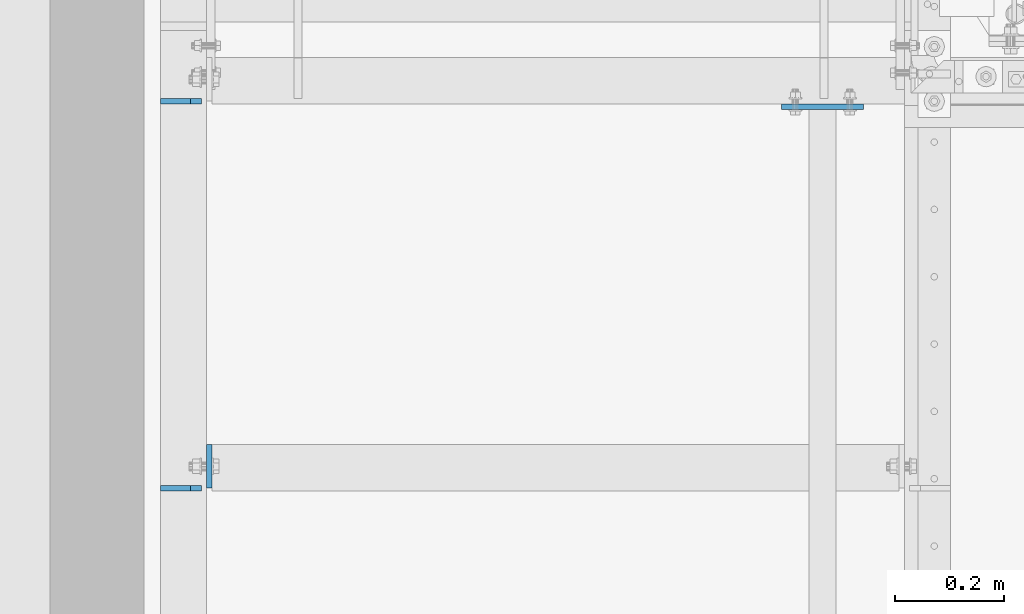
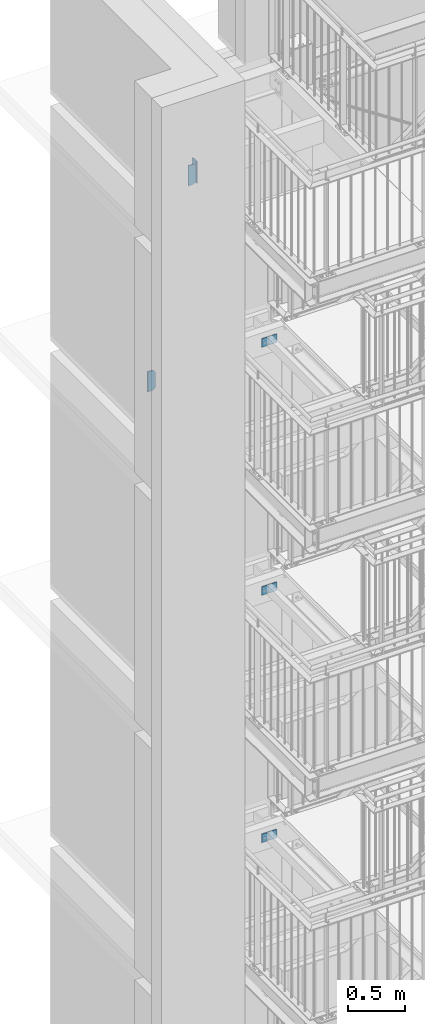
# One storey, part 181 of 831: 6 plates, 20 openings.
"""IFC2X3 building model written with IfcOpenShell, lengths in millimetres."""

from ifc_helpers import new_model, entity, si_unit, converted_unit, frame, frame_2d, origin, origin_with_axes, origin_2d_with_axis, place, context, project, spatial, polyline, circle, outline, extrude, material, layer, layer_set, element, save


model = new_model("IFC2X3")

# Units and contexts
model_context = context("Model", 3, precision=1e-09, world=origin_with_axes())
ifc_project = project(units=[si_unit("LENGTHUNIT", "METRE", prefix="MILLI"), si_unit("AREAUNIT", "SQUARE_METRE"), si_unit("VOLUMEUNIT", "CUBIC_METRE"), converted_unit("PLANEANGLEUNIT", "DEGREE", entity("IfcPlaneAngleMeasure", 0.01745329), si_unit("PLANEANGLEUNIT", "RADIAN"), dimensions=[0, 0, 0, 0, 0, 0, 0])], contexts=[model_context])

# Site, building, storey
site_placement = place(None, origin_with_axes())
site = spatial("IfcSite", under=ifc_project, at=site_placement, Name="Site", CompositionType="ELEMENT")
building_placement = place(site_placement, origin_with_axes())
building = spatial("IfcBuilding", under=site, at=building_placement, Name="Struktur 1", CompositionType="ELEMENT")
storey_placement = place(building_placement, origin_with_axes())
storey = spatial("IfcBuildingStorey", under=building, at=storey_placement, Name="Default Storey", CompositionType="ELEMENT", Elevation=0.0)

# Plate, openings
ifc_material = material(Name="S235JR")
ifc_layer = layer(ifc_material, 10.0)
ifc_layer_set = layer_set([ifc_layer], Name="S235JR")
plate_1_placement = place(None, frame((4451.713402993, 7306.236971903, 15114.0), z_axis=(0.0, -1.0, 0.0), x_axis=(1.0, 0.0, 0.0)))
plate_1 = element("IfcPlate", 1, at=plate_1_placement, inside=storey, material=ifc_layer_set, Name="-", ObjectType="-", context=model_context, shape_type="SweptSolid", body=[
    extrude(outline(polyline([(-75.0, -45.0), (75.0, -45.0), (75.0, 45.0), (-75.0, 45.0), (-75.0, -45.0)])), origin_with_axes(), (0.0, 0.0, 1.0), 10.0),
])
opening_1_placement = place(plate_1_placement, frame((-10.5, -33.0, -0.5), z_axis=(0.0, 0.0, 1.0), x_axis=(0.0, -1.0, 0.0)))
element("IfcOpeningElement", 2, at=opening_1_placement, cuts=plate_1, ObjectType="Opening", context=model_context, shape_type="SweptSolid", body=[
    extrude(circle(Radius=6.001, at=origin_2d_with_axis()), origin(), (0.0, 0.0, 1.0), 11.0),
])
opening_2_placement = place(plate_1_placement, frame((-10.5, 33.0, -0.5), z_axis=(0.0, 0.0, 1.0), x_axis=(0.0, -1.0, 0.0)))
element("IfcOpeningElement", 3, at=opening_2_placement, cuts=plate_1, ObjectType="Opening", context=model_context, shape_type="SweptSolid", body=[
    extrude(circle(Radius=6.001, at=origin_2d_with_axis()), origin(), (0.0, 0.0, 1.0), 11.0),
])
opening_3_placement = place(plate_1_placement, frame((0.0, 0.0, -0.5), z_axis=(0.0, 0.0, 1.0), x_axis=(1.0, 0.0, 0.0)))
element("IfcOpeningElement", 4, at=opening_3_placement, cuts=plate_1, ObjectType="Opening", context=model_context, shape_type="SweptSolid", body=[
    extrude(circle(Radius=7.001, at=frame_2d((50.0, 0.0), x_axis=(1.0, 0.0))), origin(), (0.0, 0.0, 1.0), 11.0),
])
opening_4_placement = place(plate_1_placement, frame((0.0, 0.0, -0.5), z_axis=(0.0, 0.0, 1.0), x_axis=(1.0, 0.0, 0.0)))
element("IfcOpeningElement", 5, at=opening_4_placement, cuts=plate_1, ObjectType="Opening", context=model_context, shape_type="SweptSolid", body=[
    extrude(circle(Radius=7.001, at=frame_2d((-50.0, 0.0), x_axis=(1.0, 0.0))), origin(), (0.0, 0.0, 1.0), 11.0),
])

plate_2_placement = place(None, frame((4451.713402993, 7306.236971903, 12479.0), z_axis=(0.0, -1.0, 0.0), x_axis=(1.0, 0.0, 0.0)))
plate_2 = element("IfcPlate", 6, at=plate_2_placement, inside=storey, material=ifc_layer_set, Name="-", ObjectType="-", context=model_context, shape_type="SweptSolid", body=[
    extrude(outline(polyline([(-75.0, -45.0), (75.0, -45.0), (75.0, 45.0), (-75.0, 45.0), (-75.0, -45.0)])), origin_with_axes(), (0.0, 0.0, 1.0), 10.0),
])
opening_5_placement = place(plate_2_placement, frame((-10.5, -33.0, -0.5), z_axis=(0.0, 0.0, 1.0), x_axis=(0.0, -1.0, 0.0)))
element("IfcOpeningElement", 7, at=opening_5_placement, cuts=plate_2, ObjectType="Opening", context=model_context, shape_type="SweptSolid", body=[
    extrude(circle(Radius=6.001, at=origin_2d_with_axis()), origin(), (0.0, 0.0, 1.0), 11.0),
])
opening_6_placement = place(plate_2_placement, frame((-10.5, 33.0, -0.5), z_axis=(0.0, 0.0, 1.0), x_axis=(0.0, -1.0, 0.0)))
element("IfcOpeningElement", 8, at=opening_6_placement, cuts=plate_2, ObjectType="Opening", context=model_context, shape_type="SweptSolid", body=[
    extrude(circle(Radius=6.001, at=origin_2d_with_axis()), origin(), (0.0, 0.0, 1.0), 11.0),
])
opening_7_placement = place(plate_2_placement, frame((0.0, 0.0, -0.5), z_axis=(0.0, 0.0, 1.0), x_axis=(1.0, 0.0, 0.0)))
element("IfcOpeningElement", 9, at=opening_7_placement, cuts=plate_2, ObjectType="Opening", context=model_context, shape_type="SweptSolid", body=[
    extrude(circle(Radius=7.001, at=frame_2d((50.0, 0.0), x_axis=(1.0, 0.0))), origin(), (0.0, 0.0, 1.0), 11.0),
])
opening_8_placement = place(plate_2_placement, frame((0.0, 0.0, -0.5), z_axis=(0.0, 0.0, 1.0), x_axis=(1.0, 0.0, 0.0)))
element("IfcOpeningElement", 10, at=opening_8_placement, cuts=plate_2, ObjectType="Opening", context=model_context, shape_type="SweptSolid", body=[
    extrude(circle(Radius=7.001, at=frame_2d((-50.0, 0.0), x_axis=(1.0, 0.0))), origin(), (0.0, 0.0, 1.0), 11.0),
])

plate_3_placement = place(None, frame((4451.713402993, 7306.236971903, 9852.0), z_axis=(0.0, -1.0, 0.0), x_axis=(1.0, 0.0, 0.0)))
plate_3 = element("IfcPlate", 11, at=plate_3_placement, inside=storey, material=ifc_layer_set, Name="-", ObjectType="-", context=model_context, shape_type="SweptSolid", body=[
    extrude(outline(polyline([(-75.0, -45.0), (75.0, -45.0), (75.0, 45.0), (-75.0, 45.0), (-75.0, -45.0)])), origin_with_axes(), (0.0, 0.0, 1.0), 10.0),
])
opening_9_placement = place(plate_3_placement, frame((-10.5, -33.0, -0.5), z_axis=(0.0, 0.0, 1.0), x_axis=(0.0, -1.0, 0.0)))
element("IfcOpeningElement", 12, at=opening_9_placement, cuts=plate_3, ObjectType="Opening", context=model_context, shape_type="SweptSolid", body=[
    extrude(circle(Radius=6.001, at=origin_2d_with_axis()), origin(), (0.0, 0.0, 1.0), 11.0),
])
opening_10_placement = place(plate_3_placement, frame((-10.5, 33.0, -0.5), z_axis=(0.0, 0.0, 1.0), x_axis=(0.0, -1.0, 0.0)))
element("IfcOpeningElement", 13, at=opening_10_placement, cuts=plate_3, ObjectType="Opening", context=model_context, shape_type="SweptSolid", body=[
    extrude(circle(Radius=6.001, at=origin_2d_with_axis()), origin(), (0.0, 0.0, 1.0), 11.0),
])
opening_11_placement = place(plate_3_placement, frame((0.0, 0.0, -0.5), z_axis=(0.0, 0.0, 1.0), x_axis=(1.0, 0.0, 0.0)))
element("IfcOpeningElement", 14, at=opening_11_placement, cuts=plate_3, ObjectType="Opening", context=model_context, shape_type="SweptSolid", body=[
    extrude(circle(Radius=7.001, at=frame_2d((50.0, 0.0), x_axis=(1.0, 0.0))), origin(), (0.0, 0.0, 1.0), 11.0),
])
opening_12_placement = place(plate_3_placement, frame((0.0, 0.0, -0.5), z_axis=(0.0, 0.0, 1.0), x_axis=(1.0, 0.0, 0.0)))
element("IfcOpeningElement", 15, at=opening_12_placement, cuts=plate_3, ObjectType="Opening", context=model_context, shape_type="SweptSolid", body=[
    extrude(circle(Radius=7.001, at=frame_2d((-50.0, 0.0), x_axis=(1.0, 0.0))), origin(), (0.0, 0.0, 1.0), 11.0),
])

plate_4_placement = place(None, frame((3312.213402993, 7316.736971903, 15196.855161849), z_axis=(0.0, -1.0, 0.0), x_axis=(-0.996815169, 0.0, 0.079746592)))
plate_4 = element("IfcPlate", 16, at=plate_4_placement, inside=storey, material=ifc_layer_set, Name="Stiffener#1", ObjectType="Stiffener#1", context=model_context, shape_type="SweptSolid", body=[
    extrude(outline(polyline([(0.0, 0.0), (75.239625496, 0.0), (57.877952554, 217.017159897), (-16.404697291, 205.05517107), (0.0, 0.0)])), origin_with_axes(), (0.0, 0.0, 1.0), 10.0),
])
opening_13_placement = place(plate_4_placement, frame((0.0, 0.0, -0.01), z_axis=(0.0, 0.0, 1.0), x_axis=(1.0, 0.0, 0.0)))
element("IfcOpeningElement", 17, at=opening_13_placement, cuts=plate_4, ObjectType="Opening", context=model_context, shape_type="SweptSolid", body=[
    extrude(outline(polyline([(-16.404697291, 205.05517107), (-14.809765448, 185.118867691), (3.34092195, 208.23487558), (-16.404697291, 205.05517107)])), origin(), (0.0, 0.0, 1.0), 10.02),
])
opening_14_placement = place(plate_4_placement, frame((0.0, 0.0, -0.01), z_axis=(0.0, 0.0, 1.0), x_axis=(1.0, 0.0, 0.0)))
element("IfcOpeningElement", 18, at=opening_14_placement, cuts=plate_4, ObjectType="Opening", context=model_context, shape_type="SweptSolid", body=[
    extrude(outline(polyline([(0.0, 0.0), (20.0, 0.0), (-1.594931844, 19.936303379), (0.0, 0.0)])), origin(), (0.0, 0.0, 1.0), 10.02),
])

plate_5_placement = place(None, frame((3312.213402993, 6606.736971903, 17816.855161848), z_axis=(0.0, -1.0, 0.0), x_axis=(-0.996815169, 0.0, 0.079746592)))
plate_5 = element("IfcPlate", 19, at=plate_5_placement, inside=storey, material=ifc_layer_set, Name="Stiffener#1", ObjectType="Stiffener#1", context=model_context, shape_type="SweptSolid", body=[
    extrude(outline(polyline([(0.0, 0.0), (75.239625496, 0.0), (57.877952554, 217.017159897), (-16.404697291, 205.05517107), (0.0, 0.0)])), origin_with_axes(), (0.0, 0.0, 1.0), 10.0),
])
opening_15_placement = place(plate_5_placement, frame((0.0, 0.0, -0.01), z_axis=(0.0, 0.0, 1.0), x_axis=(1.0, 0.0, 0.0)))
element("IfcOpeningElement", 20, at=opening_15_placement, cuts=plate_5, ObjectType="Opening", context=model_context, shape_type="SweptSolid", body=[
    extrude(outline(polyline([(-16.404697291, 205.05517107), (-14.809765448, 185.118867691), (3.34092195, 208.23487558), (-16.404697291, 205.05517107)])), origin(), (0.0, 0.0, 1.0), 10.02),
])
opening_16_placement = place(plate_5_placement, frame((0.0, 0.0, -0.01), z_axis=(0.0, 0.0, 1.0), x_axis=(1.0, 0.0, 0.0)))
element("IfcOpeningElement", 21, at=opening_16_placement, cuts=plate_5, ObjectType="Opening", context=model_context, shape_type="SweptSolid", body=[
    extrude(outline(polyline([(0.0, 0.0), (20.0, 0.0), (-1.594931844, 19.936303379), (0.0, 0.0)])), origin(), (0.0, 0.0, 1.0), 10.02),
])

plate_6_placement = place(None, frame((3321.713402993, 6601.736971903, 17828.999999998), z_axis=(1.0, 0.0, 0.0), x_axis=(0.0, 0.0, -1.0)))
plate_6 = element("IfcPlate", 22, at=plate_6_placement, inside=storey, material=ifc_layer_set, Name="Endplate", ObjectType="Endplate", context=model_context, shape_type="SweptSolid", body=[
    extrude(outline(polyline([(0.0, 0.0), (230.0, 0.0), (230.0, 80.0), (0.0, 80.0), (0.0, 0.0)])), origin_with_axes(), (0.0, 0.0, 1.0), 10.0),
])
opening_17_placement = place(plate_6_placement, frame((209.0, 17.5, -0.5), z_axis=(0.0, 0.0, 1.0), x_axis=(1.0, 0.0, 0.0)))
element("IfcOpeningElement", 23, at=opening_17_placement, cuts=plate_6, ObjectType="Opening", context=model_context, shape_type="SweptSolid", body=[
    extrude(circle(Radius=6.001, at=origin_2d_with_axis()), origin(), (0.0, 0.0, 1.0), 11.0),
])
opening_18_placement = place(plate_6_placement, frame((21.0, 17.5, -0.5), z_axis=(0.0, 0.0, 1.0), x_axis=(1.0, 0.0, 0.0)))
element("IfcOpeningElement", 24, at=opening_18_placement, cuts=plate_6, ObjectType="Opening", context=model_context, shape_type="SweptSolid", body=[
    extrude(circle(Radius=6.001, at=origin_2d_with_axis()), origin(), (0.0, 0.0, 1.0), 11.0),
])
opening_19_placement = place(plate_6_placement, frame((64.001, 40.0, -0.5), z_axis=(0.0, 0.0, -1.0), x_axis=(-1.0, 0.0, 0.0)))
element("IfcOpeningElement", 25, at=opening_19_placement, cuts=plate_6, ObjectType="Opening", context=model_context, shape_type="SweptSolid", body=[
    extrude(circle(Radius=9.001, at=frame_2d((9.001, 0.0), x_axis=(1.0, 0.0))), origin(), (0.0, 0.0, -1.0), 11.0),
])
opening_20_placement = place(plate_6_placement, frame((184.001, 40.0, -0.5), z_axis=(0.0, 0.0, -1.0), x_axis=(-1.0, 0.0, 0.0)))
element("IfcOpeningElement", 26, at=opening_20_placement, cuts=plate_6, ObjectType="Opening", context=model_context, shape_type="SweptSolid", body=[
    extrude(circle(Radius=9.001, at=frame_2d((9.001, 0.0), x_axis=(1.0, 0.0))), origin(), (0.0, 0.0, -1.0), 11.0),
])

save(model, "model.ifc")
